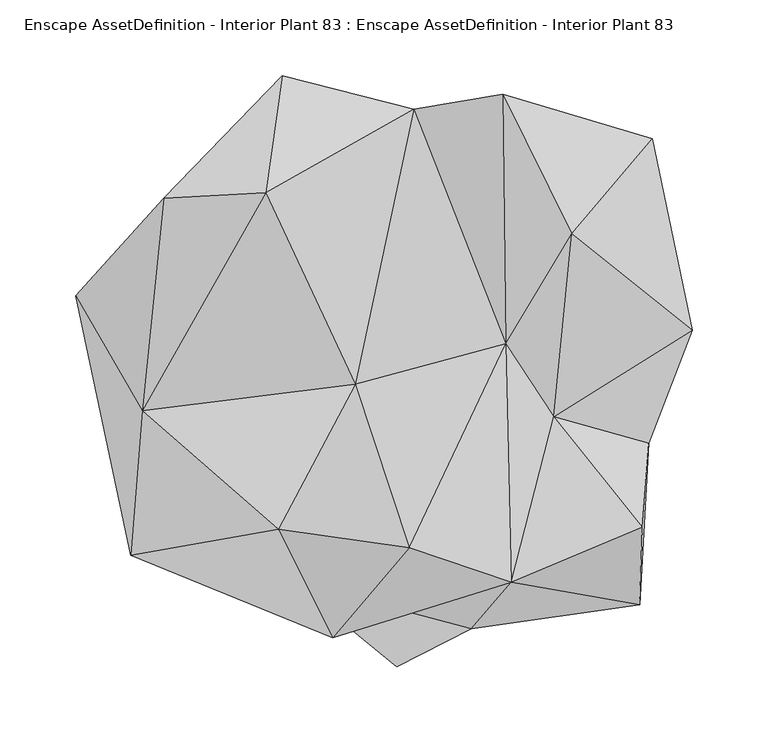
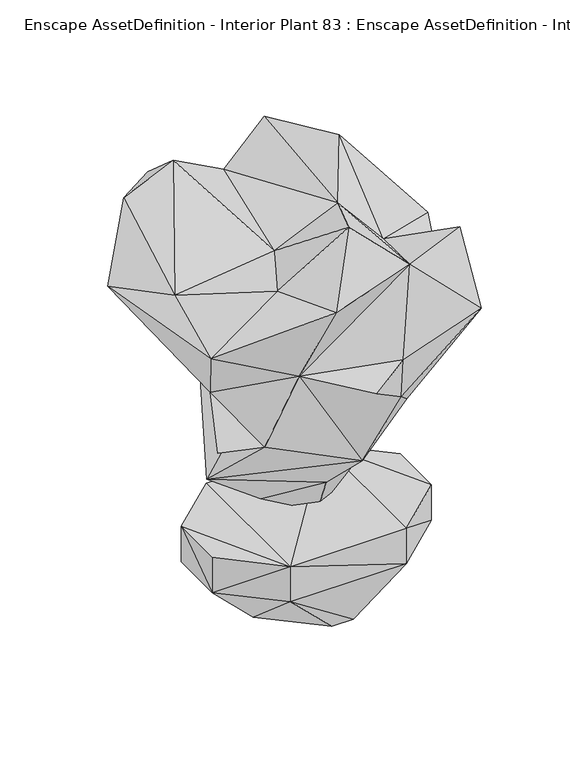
"""IFC4 building model written with IfcOpenShell, lengths in millimetres: geographic element geometry, Enscape AssetDefinition - Interior Plant 83 : Enscape AssetDefinition - Interior Plant 83."""

from ifc_helpers import new_model, si_unit, origin, place, context, project, spatial, faceted_brep, source, transform, mapped, element, save


def enscape_assetdefinition_interior_plant_83_enscape_5eada784(model_context):
    return source(origin(), model_context, "Body", "Brep", [
        faceted_brep([(-152.7229995, -46.3409983, 351.3529897), (-188.5560006, -109.6559986, 448.4159946), (-224.574998, 61.3120012, 457.8239918), (-82.1620002, -126.9389987, 397.4069953), (-55.4759987, -164.0540063, 499.071002), (-180.7229966, -14.7280004, 476.5439928), (-91.1270007, -92.6769972, 498.0019927), (-159.5450044, 127.9509962, 398.1949985), (-166.6100025, 125.4180074, 521.8099952), (-99.4039997, 129.2030066, 547.4780202), (-40.4720008, 2.841, 478.3799946), (-4.9120001, -104.6999991, 563.6559725), (62.4150001, -127.4680048, 502.4179816), (58.619, 29.5679998, 493.5739934), (-2.046, 183.9880049, 467.5549865), (-88.7290016, 206.0589939, 481.5709889), (-72.048001, 165.5929983, 411.7999971), (56.756001, 194.0030009, 514.4039989), (155.0939977, 164.764002, 442.5089955), (43.0219993, 168.2340056, 370.1789975), (-52.2879995, 103.8540006, 359.243989), (84.491998, 41.9519991, 273.0549872), (92.7940011, 105.3420007, 345.5219865), (-116.9449985, 39.0309989, 318.1070089), (-67.4839988, 85.6940001, 242.9219931), (-157.3919952, -46.8350016, 232.6789945), (-116.2969992, -41.3659997, 288.6300087), (-59.6579984, -0.034, 143.2850063), (15.8399995, 108.5050032, 227.7580053), (6.3939998, -34.9440016, 164.203003), (-120.0829968, -114.1669974, 304.7209978), (22.5859992, -88.5739997, 220.8169997), (-169.3869978, -92.9360017, 300.898999), (37.3479985, -151.2150019, 341.8160081), (75.410001, -97.2369984, 293.4690118), (88.3179978, -18.4460003, 199.8669952), (23.6089993, 15.6129999, 88.0459994), (152.948007, -36.0979997, 410.5469882), (146.7919946, -142.5160021, 420.984), (-13.3140003, -183.3769977, 383.5889995), (35.955999, -158.0899954, 398.2439935), (148.7430036, -91.444999, 502.7160048), (90.4330015, -18.6250005, 462.2539878), (102.0380035, 102.0779982, 528.5220146), (181.4589947, 38.6230014, 431.8580031), (140.9270018, 59.2529997, 373.6940026)], [[[0, 1, 2]], [[1, 3, 4]], [[5, 2, 1]], [[0, 3, 1]], [[6, 5, 1]], [[6, 1, 4]], [[2, 7, 0]], [[8, 2, 5]], [[2, 8, 7]], [[8, 5, 9]], [[6, 10, 5]], [[9, 5, 10]], [[11, 6, 4]], [[10, 6, 11]], [[3, 12, 4]], [[11, 4, 12]], [[13, 11, 12]], [[10, 11, 13]], [[9, 10, 14]], [[14, 10, 13]], [[9, 15, 8]], [[15, 9, 14]], [[15, 7, 8]], [[15, 16, 7]], [[16, 15, 14]], [[14, 13, 17]], [[18, 19, 14]], [[17, 18, 14]], [[16, 14, 19]], [[16, 19, 20]], [[16, 20, 7]], [[19, 21, 20]], [[19, 22, 21]], [[18, 22, 19]], [[20, 23, 7]], [[20, 24, 23]], [[20, 21, 24]], [[23, 0, 7]], [[23, 24, 25]], [[23, 25, 26]], [[0, 23, 26]], [[27, 25, 24]], [[24, 28, 27]], [[28, 24, 21]], [[27, 29, 25]], [[30, 25, 31]], [[31, 25, 29]], [[26, 25, 30]], [[26, 30, 32]], [[0, 26, 32]], [[3, 0, 30]], [[3, 30, 31]], [[30, 0, 32]], [[33, 31, 34]], [[33, 3, 31]], [[35, 31, 29]], [[35, 34, 31]], [[29, 27, 36]], [[36, 35, 29]], [[28, 35, 36]], [[21, 34, 35]], [[28, 21, 35]], [[21, 37, 34]], [[34, 38, 33]], [[34, 37, 38]], [[33, 39, 3]], [[40, 33, 38]], [[39, 33, 40]], [[37, 41, 38]], [[38, 12, 40]], [[41, 12, 38]], [[3, 39, 40]], [[12, 3, 40]], [[42, 12, 41]], [[42, 13, 12]], [[42, 41, 37]], [[43, 42, 44]], [[44, 42, 37]], [[42, 43, 13]], [[43, 17, 13]], [[18, 43, 44]], [[17, 43, 18]], [[44, 37, 45]], [[45, 18, 44]], [[18, 45, 22]], [[45, 37, 21]], [[45, 21, 22]], [[28, 36, 27]]]),
        faceted_brep([(-13.9899999, -82.0339993, 0.0), (13.9899999, -82.0339993, 0.0), (-75.8960024, -95.4250023, 63.6380017), (82.0339993, 21.9480004, 0.0), (82.0339993, -21.9480004, 0.0), (75.8960024, -95.4250023, 63.6380017), (-13.9899999, 82.0339993, 0.0), (13.9899999, 82.0339993, 0.0), (-82.0339993, -21.9480004, 0.0), (75.8960024, 95.4250023, 63.6380017), (-75.8960024, 95.4250023, 63.6380017), (-82.0339993, 21.9480004, 0.0), (76.1940032, 95.4250023, 112.5679985), (143.3770061, 35.3530012, 63.6380017), (-143.3770061, 35.3530012, 63.6380017), (-76.1940032, 95.4250023, 112.5679985), (-143.3770061, -35.3530012, 63.6380017), (-143.3770061, 35.3659987, 112.5679985), (-76.1940032, -95.4250023, 112.5679985), (-143.3770061, -35.3659987, 112.5679985), (76.1940032, -95.4250023, 112.5679985), (143.3770061, -35.3530012, 63.6380017), (143.3770061, -35.3659987, 112.5679985), (143.3770061, 35.3659987, 112.5679985)], [[[0, 1, 2]], [[1, 3, 4]], [[2, 1, 5]], [[6, 1, 0]], [[1, 6, 7]], [[1, 7, 3]], [[4, 5, 1]], [[0, 2, 8]], [[6, 0, 8]], [[7, 6, 9]], [[9, 6, 10]], [[6, 8, 11]], [[11, 10, 6]], [[7, 9, 3]], [[9, 10, 12]], [[9, 12, 13]], [[3, 9, 13]], [[14, 10, 11]], [[12, 10, 15]], [[14, 15, 10]], [[11, 8, 14]], [[8, 2, 16]], [[14, 8, 16]], [[14, 16, 17]], [[17, 15, 14]], [[18, 15, 17]], [[18, 12, 15]], [[18, 17, 19]], [[17, 16, 19]], [[2, 18, 16]], [[16, 18, 19]], [[2, 5, 18]], [[12, 18, 20]], [[18, 5, 20]], [[21, 5, 4]], [[21, 20, 5]], [[22, 20, 21]], [[12, 20, 22]], [[4, 3, 21]], [[21, 13, 22]], [[21, 3, 13]], [[12, 22, 23]], [[22, 13, 23]], [[13, 12, 23]]]),
    ])


if __name__ == "__main__":
    model = new_model("IFC4")
    model_context = context("Model", 3, world=origin())
    ifc_project = project(units=[si_unit("LENGTHUNIT", "METRE", prefix="MILLI")], contexts=[model_context])
    site = spatial("IfcSite", under=ifc_project)
    building = spatial("IfcBuilding", under=site)
    placement = place(None, origin())
    enscape_assetdefinition_interior_plant_83_enscape_shape = enscape_assetdefinition_interior_plant_83_enscape_5eada784(model_context)
    element("IfcGeographicElement", 1, ObjectType="Enscape AssetDefinition - Interior Plant 83 : Enscape AssetDefinition - Interior Plant 83", at=placement, inside=building, context=model_context, shape_type="MappedRepresentation", body=[
        mapped(enscape_assetdefinition_interior_plant_83_enscape_shape, transform((0.0, 0.0, 0.0), x_axis=(1.0, 0.0, 0.0), y_axis=(0.0, 1.0, 0.0), z_axis=(0.0, 0.0, 1.0))),
    ])
    save(model, "model.ifc")
